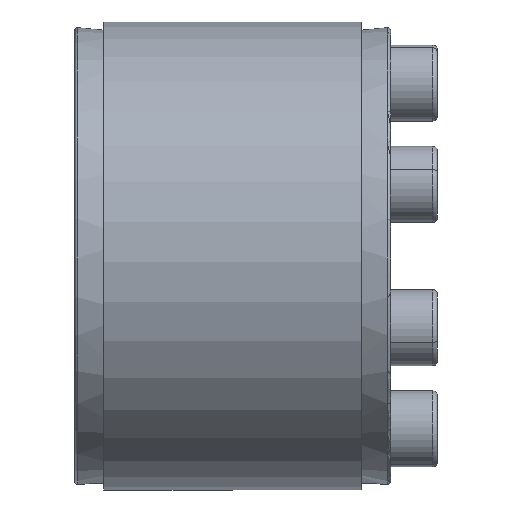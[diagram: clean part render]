
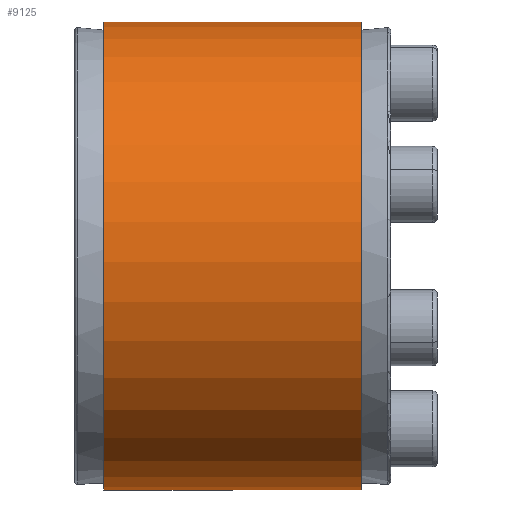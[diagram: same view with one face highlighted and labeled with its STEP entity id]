
A CAD part, front view. The second image highlights one B-rep face of the part: STEP entity #9125.
In plain terms, the highlighted cylindrical face has radius 40 mm (diameter 80 mm), a partial arc.
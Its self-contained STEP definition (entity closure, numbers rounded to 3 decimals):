
#8534=CARTESIAN_POINT('',(-22.,0.,0.));
#8535=DIRECTION('',(-1.,0.,0.));
#8536=DIRECTION('',(0.,0.,1.));
#8537=AXIS2_PLACEMENT_3D('',#8534,#8535,#8536);
#8542=DIRECTION('',(1.,0.,0.));
#8543=VECTOR('',#8542,44.);
#8544=CARTESIAN_POINT('',(-22.,-1.396,39.976));
#8545=LINE('',#8544,#8543);
#8549=CARTESIAN_POINT('',(22.,0.,0.));
#8550=DIRECTION('',(1.,0.,0.));
#8551=DIRECTION('',(0.,-0.035,0.999));
#8552=AXIS2_PLACEMENT_3D('',#8549,#8550,#8551);
#8557=DIRECTION('',(1.,0.,0.));
#8558=VECTOR('',#8557,44.);
#8559=CARTESIAN_POINT('',(-22.,0.,40.));
#8560=LINE('',#8559,#8558);
#8941=CARTESIAN_POINT('',(-22.,0.,40.));
#8943=VERTEX_POINT('',#8941);
#8945=CARTESIAN_POINT('',(-22.,-1.396,39.976));
#8947=VERTEX_POINT('',#8945);
#8969=CARTESIAN_POINT('',(22.,0.,40.));
#8970=VERTEX_POINT('',#8969);
#8971=CARTESIAN_POINT('',(22.,-1.396,39.976));
#8972=VERTEX_POINT('',#8971);
#9112=CARTESIAN_POINT('',(-24.2,0.,0.));
#9113=DIRECTION('',(1.,0.,0.));
#9114=DIRECTION('',(0.,-1.,0.));
#9115=AXIS2_PLACEMENT_3D('',#9112,#9113,#9114);
#9116=CYLINDRICAL_SURFACE('',#9115,40.);
#9118=ORIENTED_EDGE('',*,*,#9117,.T.);
#9120=ORIENTED_EDGE('',*,*,#9119,.T.);
#9121=ORIENTED_EDGE('',*,*,#9104,.T.);
#9122=ORIENTED_EDGE('',*,*,#9076,.F.);
#9123=EDGE_LOOP('',(#9118,#9120,#9121,#9122));
#9124=FACE_OUTER_BOUND('',#9123,.F.);
#9125=ADVANCED_FACE('',(#9124),#9116,.T.);
#8538=CIRCLE('',#8537,40.);
#8553=CIRCLE('',#8552,40.);
#9076=EDGE_CURVE('',#8943,#8970,#8560,.T.);
#9104=EDGE_CURVE('',#8972,#8970,#8553,.T.);
#9117=EDGE_CURVE('',#8943,#8947,#8538,.T.);
#9119=EDGE_CURVE('',#8947,#8972,#8545,.T.);
